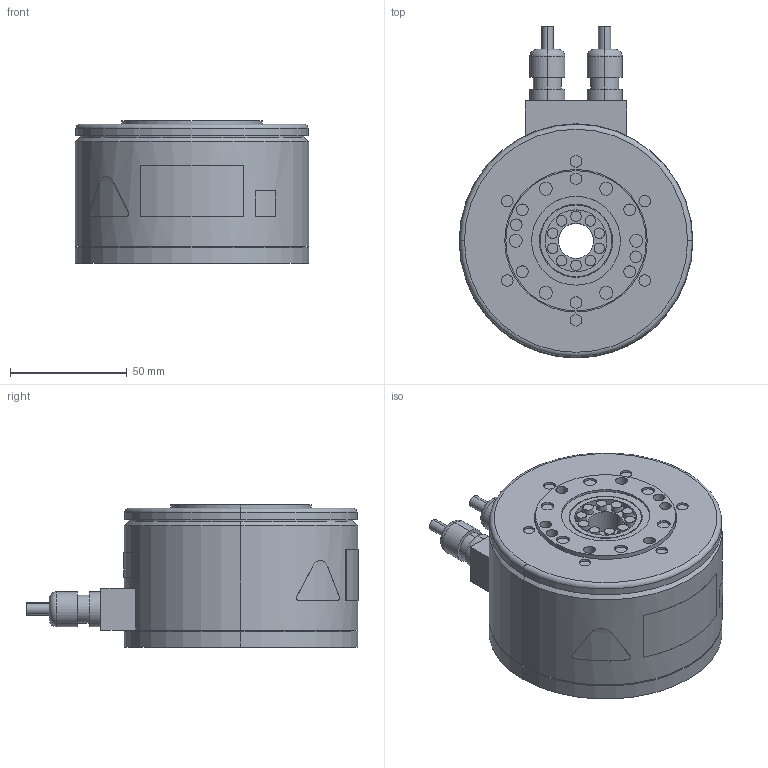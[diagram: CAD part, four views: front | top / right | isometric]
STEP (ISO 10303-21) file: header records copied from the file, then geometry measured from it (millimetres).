
FILE_DESCRIPTION (( 'STEP AP203' ), '1' );
FILE_NAME ('sgm7f_02a_a4_.STEP', '2016-08-03T00:04:52', ( '' ), ( '' ), 'SwSTEP 2.0', 'SolidWorks 2010', '' );
FILE_SCHEMA (( 'CONFIG_CONTROL_DESIGN' ));
Length unit declared in the file: millimetre
Products named in the file (1): sgm7f_02a_a4_
Bounding box: 100 x 142.1 x 61 mm (x, y, z)
Volume: 471301 mm3; surface area: 45485.9 mm2
Topology: 1 solids, 1 shells, 227 faces, 468 edges, 308 vertices
Faces by surface type: cylinder 131, plane 81, torus 6, bspline 5, cone 4
Entity records: 6413 total; most frequent: CARTESIAN_POINT 1261, DIRECTION 1182, ORIENTED_EDGE 936, AXIS2_PLACEMENT_3D 507, EDGE_CURVE 468, VERTEX_POINT 308, EDGE_LOOP 294, CIRCLE 284
